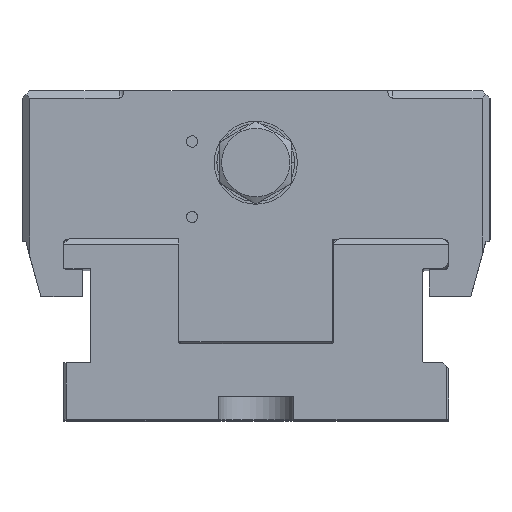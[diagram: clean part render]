
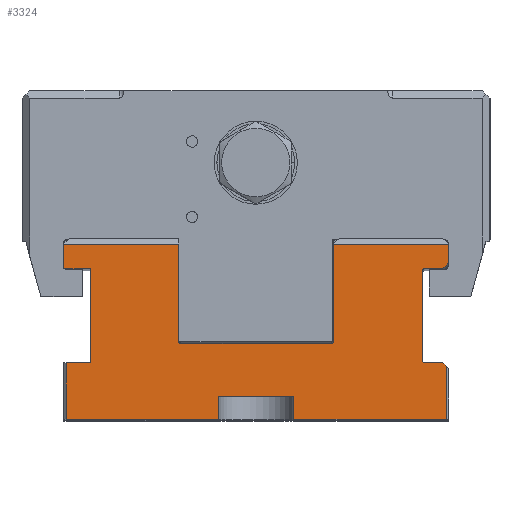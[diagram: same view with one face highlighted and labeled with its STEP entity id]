
A CAD part, top view. The second image highlights one B-rep face of the part: STEP entity #3324.
In plain terms, the highlighted planar face has unit normal (0, 0, 1).
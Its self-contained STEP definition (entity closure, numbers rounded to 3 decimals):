
#235=DIRECTION('',(-1.,0.,0.));
#236=VECTOR('',#235,4.7);
#237=CARTESIAN_POINT('',(49.5,-9.,155.));
#238=LINE('',#237,#236);
#247=DIRECTION('',(0.,1.,0.));
#248=VECTOR('',#247,14.1);
#249=CARTESIAN_POINT('',(50.4,-24.,155.));
#250=LINE('',#249,#248);
#307=DIRECTION('',(0.,-1.,0.));
#308=VECTOR('',#307,15.);
#309=CARTESIAN_POINT('',(-50.4,-9.,155.));
#310=LINE('',#309,#308);
#311=DIRECTION('',(-1.,0.,0.));
#312=VECTOR('',#311,4.7);
#313=CARTESIAN_POINT('',(49.5,16.,155.));
#314=LINE('',#313,#312);
#315=CARTESIAN_POINT('',(44.8,15.2,155.));
#316=DIRECTION('',(0.,0.,1.));
#317=DIRECTION('',(0.,1.,0.));
#318=AXIS2_PLACEMENT_3D('',#315,#316,#317);
#320=DIRECTION('',(0.,-1.,0.));
#321=VECTOR('',#320,23.4);
#322=CARTESIAN_POINT('',(44.,15.2,155.));
#323=LINE('',#322,#321);
#324=CARTESIAN_POINT('',(44.8,-8.2,155.));
#325=DIRECTION('',(0.,0.,1.));
#326=DIRECTION('',(-1.,0.,0.));
#327=AXIS2_PLACEMENT_3D('',#324,#325,#326);
#329=DIRECTION('',(0.707,-0.707,0.));
#330=VECTOR('',#329,1.273);
#331=CARTESIAN_POINT('',(49.5,-9.,155.));
#332=LINE('',#331,#330);
#333=DIRECTION('',(0.,1.,0.));
#334=VECTOR('',#333,6.);
#335=CARTESIAN_POINT('',(10.,-24.,155.));
#336=LINE('',#335,#334);
#337=DIRECTION('',(1.,0.,0.));
#338=VECTOR('',#337,6.4);
#339=CARTESIAN_POINT('',(-50.4,-9.,155.));
#340=LINE('',#339,#338);
#341=DIRECTION('',(0.,1.,0.));
#342=VECTOR('',#341,25.);
#343=CARTESIAN_POINT('',(-44.,-9.,155.));
#344=LINE('',#343,#342);
#345=DIRECTION('',(0.,-1.,0.));
#346=VECTOR('',#345,26.);
#347=CARTESIAN_POINT('',(-20.5,22.5,155.));
#348=LINE('',#347,#346);
#349=CARTESIAN_POINT('',(-20.,-3.5,155.));
#350=DIRECTION('',(0.,0.,1.));
#351=DIRECTION('',(-1.,0.,0.));
#352=AXIS2_PLACEMENT_3D('',#349,#350,#351);
#354=DIRECTION('',(1.,0.,0.));
#355=VECTOR('',#354,40.);
#356=CARTESIAN_POINT('',(-20.,-4.,155.));
#357=LINE('',#356,#355);
#358=CARTESIAN_POINT('',(20.,-3.5,155.));
#359=DIRECTION('',(0.,0.,1.));
#360=DIRECTION('',(0.,-1.,0.));
#361=AXIS2_PLACEMENT_3D('',#358,#359,#360);
#363=DIRECTION('',(-0.707,-0.707,0.));
#364=VECTOR('',#363,2.121);
#365=CARTESIAN_POINT('',(51.,17.5,155.));
#366=LINE('',#365,#364);
#411=DIRECTION('',(0.,1.,0.));
#412=VECTOR('',#411,5.);
#413=CARTESIAN_POINT('',(51.,17.5,155.));
#414=LINE('',#413,#412);
#443=DIRECTION('',(-1.,0.,0.));
#444=VECTOR('',#443,30.5);
#445=CARTESIAN_POINT('',(51.,22.5,155.));
#446=LINE('',#445,#444);
#575=DIRECTION('',(0.,-1.,0.));
#576=VECTOR('',#575,26.);
#577=CARTESIAN_POINT('',(20.5,22.5,155.));
#578=LINE('',#577,#576);
#1087=DIRECTION('',(0.,-1.,0.));
#1088=VECTOR('',#1087,6.5);
#1089=CARTESIAN_POINT('',(-51.,22.5,155.));
#1090=LINE('',#1089,#1088);
#1107=DIRECTION('',(-1.,0.,0.));
#1108=VECTOR('',#1107,30.5);
#1109=CARTESIAN_POINT('',(-20.5,22.5,155.));
#1110=LINE('',#1109,#1108);
#1413=DIRECTION('',(1.,0.,0.));
#1414=VECTOR('',#1413,40.4);
#1415=CARTESIAN_POINT('',(-50.4,-24.,155.));
#1416=LINE('',#1415,#1414);
#1431=DIRECTION('',(1.,0.,0.));
#1432=VECTOR('',#1431,40.4);
#1433=CARTESIAN_POINT('',(10.,-24.,155.));
#1434=LINE('',#1433,#1432);
#1447=DIRECTION('',(0.,1.,0.));
#1448=VECTOR('',#1447,6.);
#1449=CARTESIAN_POINT('',(-10.,-24.,155.));
#1450=LINE('',#1449,#1448);
#1455=DIRECTION('',(1.,0.,0.));
#1456=VECTOR('',#1455,20.);
#1457=CARTESIAN_POINT('',(-10.,-18.,155.));
#1458=LINE('',#1457,#1456);
#1619=DIRECTION('',(1.,0.,0.));
#1620=VECTOR('',#1619,7.);
#1621=CARTESIAN_POINT('',(-51.,16.,155.));
#1622=LINE('',#1621,#1620);
#2343=CARTESIAN_POINT('',(44.,-8.2,155.));
#2344=VERTEX_POINT('',#2343);
#2345=CARTESIAN_POINT('',(44.,15.2,155.));
#2346=VERTEX_POINT('',#2345);
#2379=CARTESIAN_POINT('',(44.8,-9.,155.));
#2380=VERTEX_POINT('',#2379);
#2381=CARTESIAN_POINT('',(49.5,-9.,155.));
#2382=VERTEX_POINT('',#2381);
#2383=CARTESIAN_POINT('',(50.4,-9.9,155.));
#2385=VERTEX_POINT('',#2383);
#2391=CARTESIAN_POINT('',(50.4,-24.,155.));
#2392=VERTEX_POINT('',#2391);
#2411=CARTESIAN_POINT('',(-50.4,-9.,155.));
#2412=CARTESIAN_POINT('',(-50.4,-24.,155.));
#2413=VERTEX_POINT('',#2411);
#2414=VERTEX_POINT('',#2412);
#2415=CARTESIAN_POINT('',(49.5,16.,155.));
#2416=CARTESIAN_POINT('',(44.8,16.,155.));
#2417=VERTEX_POINT('',#2415);
#2418=VERTEX_POINT('',#2416);
#2419=CARTESIAN_POINT('',(10.,-24.,155.));
#2420=VERTEX_POINT('',#2419);
#2421=CARTESIAN_POINT('',(10.,-18.,155.));
#2422=VERTEX_POINT('',#2421);
#2423=CARTESIAN_POINT('',(-10.,-18.,155.));
#2424=VERTEX_POINT('',#2423);
#2425=CARTESIAN_POINT('',(-10.,-24.,155.));
#2426=VERTEX_POINT('',#2425);
#2427=CARTESIAN_POINT('',(-44.,-9.,155.));
#2428=VERTEX_POINT('',#2427);
#2429=CARTESIAN_POINT('',(-44.,16.,155.));
#2430=VERTEX_POINT('',#2429);
#2431=CARTESIAN_POINT('',(-51.,16.,155.));
#2432=VERTEX_POINT('',#2431);
#2433=CARTESIAN_POINT('',(-51.,22.5,155.));
#2434=VERTEX_POINT('',#2433);
#2435=CARTESIAN_POINT('',(-20.5,22.5,155.));
#2436=VERTEX_POINT('',#2435);
#2437=CARTESIAN_POINT('',(-20.5,-3.5,155.));
#2438=VERTEX_POINT('',#2437);
#2439=CARTESIAN_POINT('',(-20.,-4.,155.));
#2440=VERTEX_POINT('',#2439);
#2441=CARTESIAN_POINT('',(20.,-4.,155.));
#2442=VERTEX_POINT('',#2441);
#2443=CARTESIAN_POINT('',(20.5,-3.5,155.));
#2444=VERTEX_POINT('',#2443);
#2445=CARTESIAN_POINT('',(20.5,22.5,155.));
#2446=VERTEX_POINT('',#2445);
#2447=CARTESIAN_POINT('',(51.,22.5,155.));
#2448=VERTEX_POINT('',#2447);
#2449=CARTESIAN_POINT('',(51.,17.5,155.));
#2450=VERTEX_POINT('',#2449);
#3271=CARTESIAN_POINT('',(0.,0.,155.));
#3272=DIRECTION('',(0.,0.,1.));
#3273=DIRECTION('',(1.,0.,0.));
#3274=AXIS2_PLACEMENT_3D('',#3271,#3272,#3273);
#3275=PLANE('',#3274);
#3277=ORIENTED_EDGE('',*,*,#3276,.T.);
#3279=ORIENTED_EDGE('',*,*,#3278,.T.);
#3280=ORIENTED_EDGE('',*,*,#3070,.T.);
#3281=ORIENTED_EDGE('',*,*,#3133,.T.);
#3282=ORIENTED_EDGE('',*,*,#3149,.F.);
#3283=ORIENTED_EDGE('',*,*,#3161,.T.);
#3284=ORIENTED_EDGE('',*,*,#3182,.F.);
#3286=ORIENTED_EDGE('',*,*,#3285,.F.);
#3288=ORIENTED_EDGE('',*,*,#3287,.T.);
#3290=ORIENTED_EDGE('',*,*,#3289,.F.);
#3292=ORIENTED_EDGE('',*,*,#3291,.F.);
#3294=ORIENTED_EDGE('',*,*,#3293,.F.);
#3295=ORIENTED_EDGE('',*,*,#3261,.F.);
#3297=ORIENTED_EDGE('',*,*,#3296,.T.);
#3299=ORIENTED_EDGE('',*,*,#3298,.T.);
#3301=ORIENTED_EDGE('',*,*,#3300,.F.);
#3303=ORIENTED_EDGE('',*,*,#3302,.F.);
#3305=ORIENTED_EDGE('',*,*,#3304,.F.);
#3307=ORIENTED_EDGE('',*,*,#3306,.T.);
#3309=ORIENTED_EDGE('',*,*,#3308,.T.);
#3311=ORIENTED_EDGE('',*,*,#3310,.T.);
#3313=ORIENTED_EDGE('',*,*,#3312,.T.);
#3315=ORIENTED_EDGE('',*,*,#3314,.F.);
#3317=ORIENTED_EDGE('',*,*,#3316,.F.);
#3319=ORIENTED_EDGE('',*,*,#3318,.F.);
#3321=ORIENTED_EDGE('',*,*,#3320,.T.);
#3322=EDGE_LOOP('',(#3277,#3279,#3280,#3281,#3282,#3283,#3284,#3286,#3288,#3290,
#3292,#3294,#3295,#3297,#3299,#3301,#3303,#3305,#3307,#3309,#3311,#3313,#3315,
#3317,#3319,#3321));
#3323=FACE_OUTER_BOUND('',#3322,.F.);
#3324=ADVANCED_FACE('',(#3323),#3275,.T.);
#319=CIRCLE('',#318,0.8);
#328=CIRCLE('',#327,0.8);
#353=CIRCLE('',#352,0.5);
#362=CIRCLE('',#361,0.5);
#3070=EDGE_CURVE('',#2346,#2344,#323,.T.);
#3133=EDGE_CURVE('',#2344,#2380,#328,.T.);
#3149=EDGE_CURVE('',#2382,#2380,#238,.T.);
#3161=EDGE_CURVE('',#2382,#2385,#332,.T.);
#3182=EDGE_CURVE('',#2392,#2385,#250,.T.);
#3261=EDGE_CURVE('',#2413,#2414,#310,.T.);
#3276=EDGE_CURVE('',#2417,#2418,#314,.T.);
#3278=EDGE_CURVE('',#2418,#2346,#319,.T.);
#3285=EDGE_CURVE('',#2420,#2392,#1434,.T.);
#3287=EDGE_CURVE('',#2420,#2422,#336,.T.);
#3289=EDGE_CURVE('',#2424,#2422,#1458,.T.);
#3291=EDGE_CURVE('',#2426,#2424,#1450,.T.);
#3293=EDGE_CURVE('',#2414,#2426,#1416,.T.);
#3296=EDGE_CURVE('',#2413,#2428,#340,.T.);
#3298=EDGE_CURVE('',#2428,#2430,#344,.T.);
#3300=EDGE_CURVE('',#2432,#2430,#1622,.T.);
#3302=EDGE_CURVE('',#2434,#2432,#1090,.T.);
#3304=EDGE_CURVE('',#2436,#2434,#1110,.T.);
#3306=EDGE_CURVE('',#2436,#2438,#348,.T.);
#3308=EDGE_CURVE('',#2438,#2440,#353,.T.);
#3310=EDGE_CURVE('',#2440,#2442,#357,.T.);
#3312=EDGE_CURVE('',#2442,#2444,#362,.T.);
#3314=EDGE_CURVE('',#2446,#2444,#578,.T.);
#3316=EDGE_CURVE('',#2448,#2446,#446,.T.);
#3318=EDGE_CURVE('',#2450,#2448,#414,.T.);
#3320=EDGE_CURVE('',#2450,#2417,#366,.T.);
